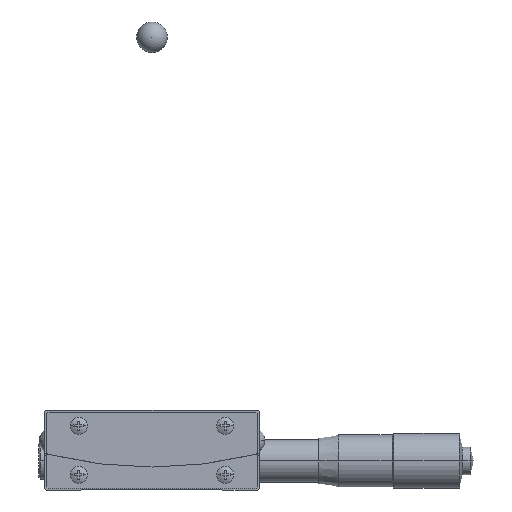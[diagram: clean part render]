
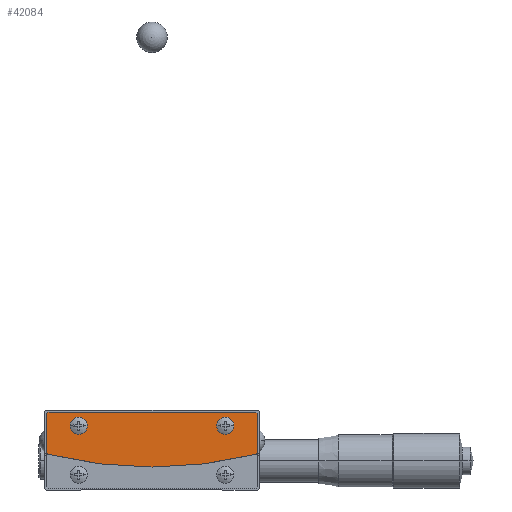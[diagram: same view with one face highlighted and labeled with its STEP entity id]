
A CAD part, front view. The second image highlights one B-rep face of the part: STEP entity #42084.
In plain terms, the highlighted planar face has unit normal (0, -1, 0).
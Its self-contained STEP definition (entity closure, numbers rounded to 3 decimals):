
#7359 = EDGE_CURVE ( 'NONE', #7360, #7361, #12487, .T. ) ;
#7360 = VERTEX_POINT ( 'NONE', #12480 ) ;
#7361 = VERTEX_POINT ( 'NONE', #12479 ) ;
#7585 = EDGE_CURVE ( 'NONE', #7586, #7643, #12880, .T. ) ;
#7586 = VERTEX_POINT ( 'NONE', #12871 ) ;
#7643 = VERTEX_POINT ( 'NONE', #13006 ) ;
#12479 = CARTESIAN_POINT ( 'NONE',  ( 26.8, -35.5, -5. ) ) ;
#12480 = CARTESIAN_POINT ( 'NONE',  ( 21.2, -35.5, -5. ) ) ;
#12481 = DIRECTION ( 'NONE',  ( 0., 0., -1. ) ) ;
#12482 = DIRECTION ( 'NONE',  ( 0., 1., 0. ) ) ;
#12483 = CARTESIAN_POINT ( 'NONE',  ( 24., -35.5, -5. ) ) ;
#12484 = AXIS2_PLACEMENT_3D ( 'NONE', #12483, #12482, #12481 ) ;
#12487 = CIRCLE ( 'NONE', #12484, 2.8 ) ;
#12871 = CARTESIAN_POINT ( 'NONE',  ( -26.8, -35.5, -5. ) ) ;
#12872 = DIRECTION ( 'NONE',  ( 0., 0., -1. ) ) ;
#12873 = DIRECTION ( 'NONE',  ( 0., 1., 0. ) ) ;
#12874 = CARTESIAN_POINT ( 'NONE',  ( -24., -35.5, -5. ) ) ;
#12875 = AXIS2_PLACEMENT_3D ( 'NONE', #12874, #12873, #12872 ) ;
#12880 = CIRCLE ( 'NONE', #12875, 2.8 ) ;
#13006 = CARTESIAN_POINT ( 'NONE',  ( -21.2, -35.5, -5. ) ) ;
#26161 = DIRECTION ( 'NONE',  ( 1., 0., 0. ) ) ;
#26163 = DIRECTION ( 'NONE',  ( 0., -1., 0. ) ) ;
#26607 = DIRECTION ( 'NONE',  ( 0., 0., 1. ) ) ;
#26608 = VECTOR ( 'NONE', #26607, 1000. ) ;
#26610 = CARTESIAN_POINT ( 'NONE',  ( 34.5, -35.5, -13.809 ) ) ;
#26611 = LINE ( 'NONE', #26610, #26608 ) ;
#26616 = CARTESIAN_POINT ( 'NONE',  ( 34.5, -35.5, -13.809 ) ) ;
#26617 = DIRECTION ( 'NONE',  ( 1., 0., 0. ) ) ;
#26618 = DIRECTION ( 'NONE',  ( 0., -1., 0. ) ) ;
#26619 = CARTESIAN_POINT ( 'NONE',  ( 34., -35.5, -13.809 ) ) ;
#26620 = AXIS2_PLACEMENT_3D ( 'NONE', #26619, #26618, #26617 ) ;
#26622 = CIRCLE ( 'NONE', #26620, 0.5 ) ;
#26627 = CARTESIAN_POINT ( 'NONE',  ( 34.121, -35.5, -14.294 ) ) ;
#26628 = CARTESIAN_POINT ( 'NONE',  ( -34.121, -35.5, -14.294 ) ) ;
#26679 = CARTESIAN_POINT ( 'NONE',  ( 0., -35.5, 122. ) ) ;
#26681 = AXIS2_PLACEMENT_3D ( 'NONE', #26679, #26163, #26161 ) ;
#26682 = CIRCLE ( 'NONE', #26681, 140.5 ) ;
#26688 = DIRECTION ( 'NONE',  ( 0., 0., -1. ) ) ;
#26691 = DIRECTION ( 'NONE',  ( 0., 1., 0. ) ) ;
#26693 = CARTESIAN_POINT ( 'NONE',  ( 24., -35.5, -5. ) ) ;
#26694 = AXIS2_PLACEMENT_3D ( 'NONE', #26693, #26691, #26688 ) ;
#26695 = CIRCLE ( 'NONE', #26694, 2.8 ) ;
#26699 = DIRECTION ( 'NONE',  ( 0., 0., -1. ) ) ;
#26700 = DIRECTION ( 'NONE',  ( 0., 1., 0. ) ) ;
#26702 = CARTESIAN_POINT ( 'NONE',  ( -24., -35.5, -5. ) ) ;
#26703 = AXIS2_PLACEMENT_3D ( 'NONE', #26702, #26700, #26699 ) ;
#26705 = CIRCLE ( 'NONE', #26703, 2.8 ) ;
#26709 = DIRECTION ( 'NONE',  ( 1., 0., 0. ) ) ;
#26710 = DIRECTION ( 'NONE',  ( 0., -1., 0. ) ) ;
#26712 = CARTESIAN_POINT ( 'NONE',  ( 0., -35.5, 122. ) ) ;
#26713 = AXIS2_PLACEMENT_3D ( 'NONE', #26712, #26710, #26709 ) ;
#26717 = PLANE ( 'NONE',  #26713 ) ;
#26719 = FACE_OUTER_BOUND ( 'NONE', #42093, .T. ) ;
#26720 = FACE_BOUND ( 'NONE', #42089, .T. ) ;
#26721 = FACE_BOUND ( 'NONE', #42085, .T. ) ;
#26722 = CARTESIAN_POINT ( 'NONE',  ( -34., -35.5, -0.5 ) ) ;
#26724 = DIRECTION ( 'NONE',  ( -1., 0., 0. ) ) ;
#26725 = VECTOR ( 'NONE', #26724, 1000. ) ;
#26727 = CARTESIAN_POINT ( 'NONE',  ( 34., -35.5, -0.5 ) ) ;
#26729 = LINE ( 'NONE', #26727, #26725 ) ;
#26731 = CARTESIAN_POINT ( 'NONE',  ( 34., -35.5, -0.5 ) ) ;
#26733 = DIRECTION ( 'NONE',  ( -0.707, 0., 0.707 ) ) ;
#26735 = VECTOR ( 'NONE', #26733, 1000. ) ;
#26736 = CARTESIAN_POINT ( 'NONE',  ( 34.5, -35.5, -1. ) ) ;
#26738 = LINE ( 'NONE', #26736, #26735 ) ;
#26742 = CARTESIAN_POINT ( 'NONE',  ( 34.5, -35.5, -1. ) ) ;
#26809 = CARTESIAN_POINT ( 'NONE',  ( -34.5, -35.5, -1. ) ) ;
#26810 = LINE ( 'NONE', #26931, #26930 ) ;
#26815 = DIRECTION ( 'NONE',  ( -0.707, 0., -0.707 ) ) ;
#26817 = VECTOR ( 'NONE', #26815, 1000. ) ;
#26819 = CARTESIAN_POINT ( 'NONE',  ( -34., -35.5, -0.5 ) ) ;
#26820 = LINE ( 'NONE', #26819, #26817 ) ;
#26916 = DIRECTION ( 'NONE',  ( 1., 0., 0. ) ) ;
#26918 = DIRECTION ( 'NONE',  ( 0., -1., 0. ) ) ;
#26920 = CARTESIAN_POINT ( 'NONE',  ( -34., -35.5, -13.809 ) ) ;
#26921 = AXIS2_PLACEMENT_3D ( 'NONE', #26920, #26918, #26916 ) ;
#26924 = CIRCLE ( 'NONE', #26921, 0.5 ) ;
#26926 = CARTESIAN_POINT ( 'NONE',  ( -34.5, -35.5, -13.809 ) ) ;
#26929 = DIRECTION ( 'NONE',  ( 0., 0., -1. ) ) ;
#26930 = VECTOR ( 'NONE', #26929, 1000. ) ;
#26931 = CARTESIAN_POINT ( 'NONE',  ( -34.5, -35.5, -1. ) ) ;
#42068 = VERTEX_POINT ( 'NONE', #26628 ) ;
#42069 = VERTEX_POINT ( 'NONE', #26627 ) ;
#42070 = ORIENTED_EDGE ( 'NONE', *, *, #42071, .T. ) ;
#42071 = EDGE_CURVE ( 'NONE', #42069, #42072, #26622, .T. ) ;
#42072 = VERTEX_POINT ( 'NONE', #26616 ) ;
#42073 = ORIENTED_EDGE ( 'NONE', *, *, #42074, .T. ) ;
#42074 = EDGE_CURVE ( 'NONE', #42072, #42075, #26611, .T. ) ;
#42075 = VERTEX_POINT ( 'NONE', #26742 ) ;
#42076 = ORIENTED_EDGE ( 'NONE', *, *, #42077, .T. ) ;
#42077 = EDGE_CURVE ( 'NONE', #42075, #42078, #26738, .T. ) ;
#42078 = VERTEX_POINT ( 'NONE', #26731 ) ;
#42079 = ORIENTED_EDGE ( 'NONE', *, *, #42080, .T. ) ;
#42080 = EDGE_CURVE ( 'NONE', #42078, #42081, #26729, .T. ) ;
#42081 = VERTEX_POINT ( 'NONE', #26722 ) ;
#42082 = ORIENTED_EDGE ( 'NONE', *, *, #42135, .T. ) ;
#42084 = ADVANCED_FACE ( 'NONE', ( #26721, #26720, #26719 ), #26717, .T. ) ;
#42085 = EDGE_LOOP ( 'NONE', ( #42086, #42088 ) ) ;
#42086 = ORIENTED_EDGE ( 'NONE', *, *, #42087, .T. ) ;
#42087 = EDGE_CURVE ( 'NONE', #7643, #7586, #26705, .T. ) ;
#42088 = ORIENTED_EDGE ( 'NONE', *, *, #7585, .T. ) ;
#42089 = EDGE_LOOP ( 'NONE', ( #42090, #42092 ) ) ;
#42090 = ORIENTED_EDGE ( 'NONE', *, *, #42091, .T. ) ;
#42091 = EDGE_CURVE ( 'NONE', #7361, #7360, #26695, .T. ) ;
#42092 = ORIENTED_EDGE ( 'NONE', *, *, #7359, .T. ) ;
#42093 = EDGE_LOOP ( 'NONE', ( #42094, #42070, #42073, #42076, #42079, #42082, #42137, #42140 ) ) ;
#42094 = ORIENTED_EDGE ( 'NONE', *, *, #42095, .T. ) ;
#42095 = EDGE_CURVE ( 'NONE', #42068, #42069, #26682, .T. ) ;
#42135 = EDGE_CURVE ( 'NONE', #42081, #42136, #26820, .T. ) ;
#42136 = VERTEX_POINT ( 'NONE', #26809 ) ;
#42137 = ORIENTED_EDGE ( 'NONE', *, *, #42138, .T. ) ;
#42138 = EDGE_CURVE ( 'NONE', #42136, #42139, #26810, .T. ) ;
#42139 = VERTEX_POINT ( 'NONE', #26926 ) ;
#42140 = ORIENTED_EDGE ( 'NONE', *, *, #42141, .T. ) ;
#42141 = EDGE_CURVE ( 'NONE', #42139, #42068, #26924, .T. ) ;
